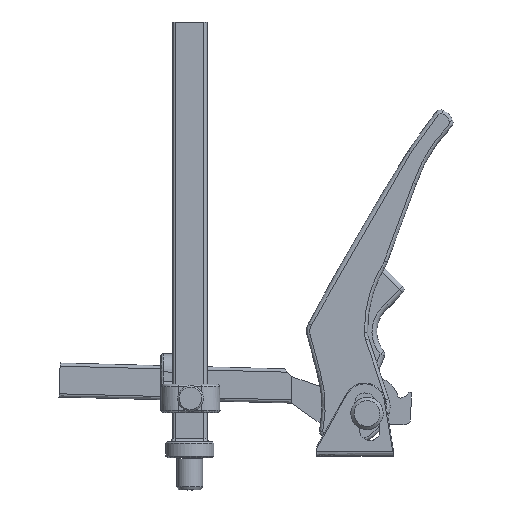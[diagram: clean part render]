
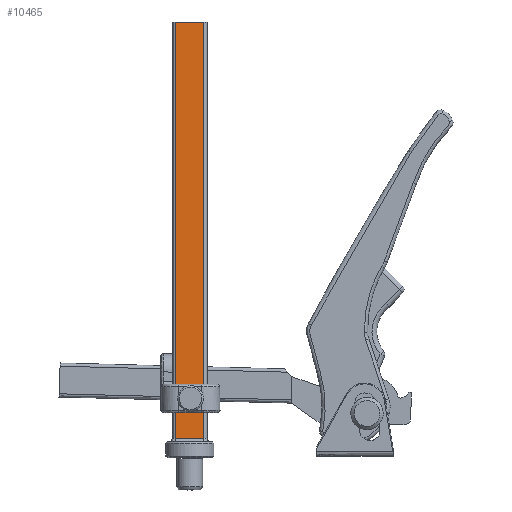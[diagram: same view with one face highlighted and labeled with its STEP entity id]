
A CAD part, front view. The second image highlights one B-rep face of the part: STEP entity #10465.
In plain terms, the highlighted free-form (B-spline) face has degree [1, 1] with [2, 2] control points.
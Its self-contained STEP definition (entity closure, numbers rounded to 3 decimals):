
#10333=CARTESIAN_POINT('',(-8.701,-4.3,265.));
#10334=VERTEX_POINT('',#10333);
#10341=CARTESIAN_POINT('',(8.701,-4.3,265.));
#10342=VERTEX_POINT('',#10341);
#10343=CARTESIAN_POINT('',(-8.701,-4.3,265.));
#10344=CARTESIAN_POINT('',(8.701,-4.3,265.));
#10345=B_SPLINE_CURVE_WITH_KNOTS('',1,(#10343,#10344),.POLYLINE_FORM.,.F.,.U.,(2,2),(0.,1.),.UNSPECIFIED.);
#10346=EDGE_CURVE('',#10334,#10342,#10345,.T.);
#10426=CARTESIAN_POINT('',(-8.701,-4.3,7.));
#10427=VERTEX_POINT('',#10426);
#10434=CARTESIAN_POINT('',(-8.701,-4.3,7.));
#10435=CARTESIAN_POINT('',(-8.701,-4.3,265.));
#10436=B_SPLINE_CURVE_WITH_KNOTS('',1,(#10434,#10435),.POLYLINE_FORM.,.F.,.U.,(2,2),(0.029,1.),.UNSPECIFIED.);
#10437=EDGE_CURVE('',#10427,#10334,#10436,.T.);
#10444=CARTESIAN_POINT('',(-8.701,-4.3,-0.6));
#10445=CARTESIAN_POINT('',(-8.701,-4.3,265.));
#10446=CARTESIAN_POINT('',(8.701,-4.3,-0.6));
#10447=CARTESIAN_POINT('',(8.701,-4.3,265.));
#10448=B_SPLINE_SURFACE_WITH_KNOTS('',1,1,((#10444,#10445),(#10446,#10447)),.PLANE_SURF.,.F.,.F.,.U.,(2,2),(2,2),(0.,1.),(0.,1.),.UNSPECIFIED.);
#10449=CARTESIAN_POINT('',(8.701,-4.3,7.));
#10450=VERTEX_POINT('',#10449);
#10451=CARTESIAN_POINT('',(-8.701,-4.3,7.));
#10452=CARTESIAN_POINT('',(8.701,-4.3,7.));
#10453=B_SPLINE_CURVE_WITH_KNOTS('',1,(#10451,#10452),.POLYLINE_FORM.,.F.,.U.,(2,2),(0.,1.),.UNSPECIFIED.);
#10454=EDGE_CURVE('',#10427,#10450,#10453,.T.);
#10455=ORIENTED_EDGE('',*,*,#10454,.T.);
#10456=CARTESIAN_POINT('',(8.701,-4.3,7.));
#10457=CARTESIAN_POINT('',(8.701,-4.3,265.));
#10458=B_SPLINE_CURVE_WITH_KNOTS('',1,(#10456,#10457),.POLYLINE_FORM.,.F.,.U.,(2,2),(0.029,1.),.UNSPECIFIED.);
#10459=EDGE_CURVE('',#10450,#10342,#10458,.T.);
#10460=ORIENTED_EDGE('',*,*,#10459,.T.);
#10461=ORIENTED_EDGE('',*,*,#10346,.F.);
#10462=ORIENTED_EDGE('',*,*,#10437,.F.);
#10463=EDGE_LOOP('',(#10455,#10460,#10461,#10462));
#10464=FACE_OUTER_BOUND('',#10463,.T.);
#10465=ADVANCED_FACE('',(#10464),#10448,.T.);
